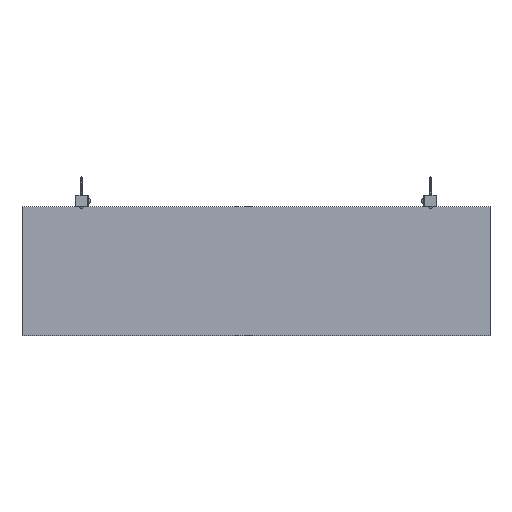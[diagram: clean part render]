
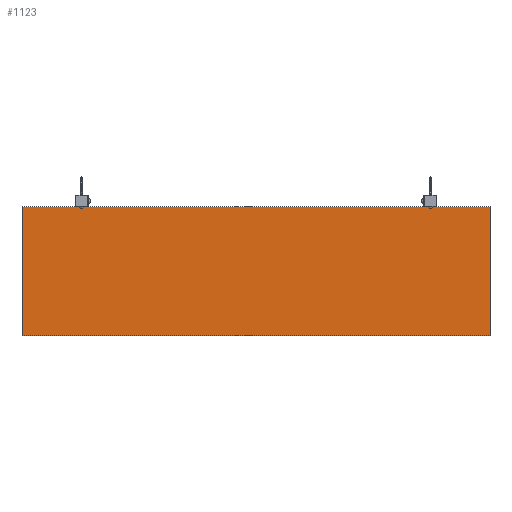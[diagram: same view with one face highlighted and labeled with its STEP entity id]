
A CAD part, top view. The second image highlights one B-rep face of the part: STEP entity #1123.
In plain terms, the highlighted planar face has unit normal (0, 0, 1).
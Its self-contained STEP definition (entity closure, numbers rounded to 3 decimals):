
#1123=ADVANCED_FACE('',(#1455),#5699,.T.);
#1455=FACE_OUTER_BOUND('',#1771,.T.);
#1771=EDGE_LOOP('',(#2178,#2179,#2180,#2181));
#2178=ORIENTED_EDGE('',*,*,#3412,.T.);
#2179=ORIENTED_EDGE('',*,*,#3416,.T.);
#2180=ORIENTED_EDGE('',*,*,#3419,.T.);
#2181=ORIENTED_EDGE('',*,*,#3421,.T.);
#3412=EDGE_CURVE('',#4985,#4984,#4506,.T.);
#3416=EDGE_CURVE('',#4984,#4987,#4510,.T.);
#3419=EDGE_CURVE('',#4987,#4989,#4513,.T.);
#3421=EDGE_CURVE('',#4989,#4985,#4515,.T.);
#4506=B_SPLINE_CURVE_WITH_KNOTS('',1,(#6575,#6576),.UNSPECIFIED.,.F.,.F.,
(2,2),(0.,850.),.UNSPECIFIED.);
#4510=B_SPLINE_CURVE_WITH_KNOTS('',1,(#6583,#6584),.UNSPECIFIED.,.F.,.F.,
(2,2),(850.,1090.),.UNSPECIFIED.);
#4513=B_SPLINE_CURVE_WITH_KNOTS('',1,(#6589,#6590),.UNSPECIFIED.,.F.,.F.,
(2,2),(1090.,1940.),.UNSPECIFIED.);
#4515=B_SPLINE_CURVE_WITH_KNOTS('',1,(#6593,#6594),.UNSPECIFIED.,.F.,.F.,
(2,2),(1940.,2180.),.UNSPECIFIED.);
#4984=VERTEX_POINT('',#6565);
#4985=VERTEX_POINT('',#6566);
#4987=VERTEX_POINT('',#6568);
#4989=VERTEX_POINT('',#6570);
#5699=PLANE('',#5869);
#5869=AXIS2_PLACEMENT_3D('',#6562,#6023,$);
#6023=DIRECTION('',(0.,0.,1.));
#6562=CARTESIAN_POINT('',(10466.045,4757.138,871.546));
#6565=CARTESIAN_POINT('',(11336.045,4757.138,871.546));
#6566=CARTESIAN_POINT('',(10466.045,4757.138,871.546));
#6568=CARTESIAN_POINT('',(11336.045,4997.138,871.546));
#6570=CARTESIAN_POINT('',(10466.045,4997.138,871.546));
#6575=CARTESIAN_POINT('',(10466.045,4757.138,871.546));
#6576=CARTESIAN_POINT('',(11336.045,4757.138,871.546));
#6583=CARTESIAN_POINT('',(11336.045,4757.138,871.546));
#6584=CARTESIAN_POINT('',(11336.045,4997.138,871.546));
#6589=CARTESIAN_POINT('',(11336.045,4997.138,871.546));
#6590=CARTESIAN_POINT('',(10466.045,4997.138,871.546));
#6593=CARTESIAN_POINT('',(10466.045,4997.138,871.546));
#6594=CARTESIAN_POINT('',(10466.045,4757.138,871.546));
